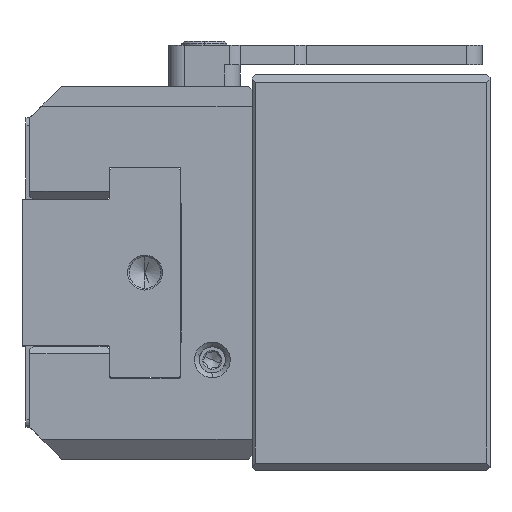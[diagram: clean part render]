
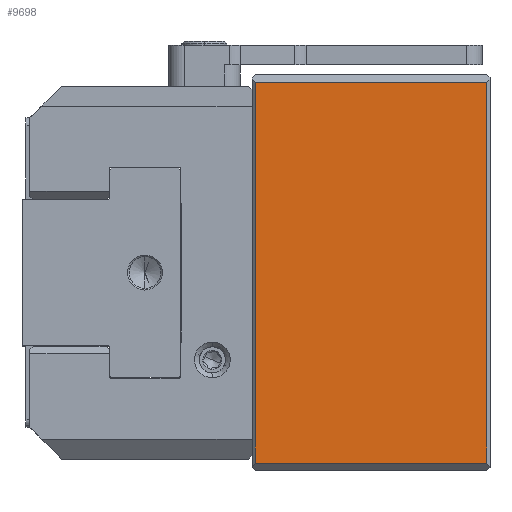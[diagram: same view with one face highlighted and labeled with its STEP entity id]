
A CAD part, left-side view. The second image highlights one B-rep face of the part: STEP entity #9698.
In plain terms, the highlighted planar face has unit normal (-1, 0, 0).
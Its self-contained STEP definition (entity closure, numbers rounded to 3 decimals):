
#707 = VERTEX_POINT ( 'NONE', #13749 ) ;
#1398 = LINE ( 'NONE', #14771, #32013 ) ;
#4055 = ORIENTED_EDGE ( 'NONE', *, *, #34072, .F. ) ;
#5522 = CARTESIAN_POINT ( 'NONE',  ( -40.5, -29.6, 24. ) ) ;
#8153 = CARTESIAN_POINT ( 'NONE',  ( -40.5, -30., -24. ) ) ;
#8493 = ORIENTED_EDGE ( 'NONE', *, *, #49710, .T. ) ;
#8869 = VERTEX_POINT ( 'NONE', #21002 ) ;
#9698 = ADVANCED_FACE ( 'NONE', ( #25988 ), #34706, .T. ) ;
#13749 = CARTESIAN_POINT ( 'NONE',  ( -40.5, -29.6, 24. ) ) ;
#14037 = AXIS2_PLACEMENT_3D ( 'NONE', #53031, #43746, #47535 ) ;
#14771 = CARTESIAN_POINT ( 'NONE',  ( -40.5, -0.4, -24. ) ) ;
#17362 = DIRECTION ( 'NONE',  ( 0., 1., 0. ) ) ;
#19439 = VECTOR ( 'NONE', #23273, 1000. ) ;
#21002 = CARTESIAN_POINT ( 'NONE',  ( -40.5, -0.4, -24. ) ) ;
#21097 = VERTEX_POINT ( 'NONE', #50302 ) ;
#23273 = DIRECTION ( 'NONE',  ( 0., 0., 1. ) ) ;
#25335 = VERTEX_POINT ( 'NONE', #42636 ) ;
#25988 = FACE_OUTER_BOUND ( 'NONE', #45920, .T. ) ;
#29061 = VECTOR ( 'NONE', #51205, 1000. ) ;
#32013 = VECTOR ( 'NONE', #54625, 1000. ) ;
#34072 = EDGE_CURVE ( 'NONE', #21097, #8869, #34605, .T. ) ;
#34605 = LINE ( 'NONE', #8153, #29061 ) ;
#34706 = PLANE ( 'NONE',  #14037 ) ;
#38624 = LINE ( 'NONE', #56331, #48824 ) ;
#42636 = CARTESIAN_POINT ( 'NONE',  ( -40.5, -0.4, 24. ) ) ;
#43746 = DIRECTION ( 'NONE',  ( -1., 0., 0. ) ) ;
#43784 = EDGE_CURVE ( 'NONE', #21097, #707, #45386, .T. ) ;
#45386 = LINE ( 'NONE', #5522, #19439 ) ;
#45920 = EDGE_LOOP ( 'NONE', ( #4055, #57242, #8493, #46456 ) ) ;
#46456 = ORIENTED_EDGE ( 'NONE', *, *, #52874, .T. ) ;
#47535 = DIRECTION ( 'NONE',  ( 0., 0., 1. ) ) ;
#48824 = VECTOR ( 'NONE', #17362, 1000. ) ;
#49710 = EDGE_CURVE ( 'NONE', #707, #25335, #38624, .T. ) ;
#50302 = CARTESIAN_POINT ( 'NONE',  ( -40.5, -29.6, -24. ) ) ;
#51205 = DIRECTION ( 'NONE',  ( 0., 1., 0. ) ) ;
#52874 = EDGE_CURVE ( 'NONE', #25335, #8869, #1398, .T. ) ;
#53031 = CARTESIAN_POINT ( 'NONE',  ( -40.5, -30., 24. ) ) ;
#54625 = DIRECTION ( 'NONE',  ( 0., 0., -1. ) ) ;
#56331 = CARTESIAN_POINT ( 'NONE',  ( -40.5, -30., 24. ) ) ;
#57242 = ORIENTED_EDGE ( 'NONE', *, *, #43784, .T. ) ;
